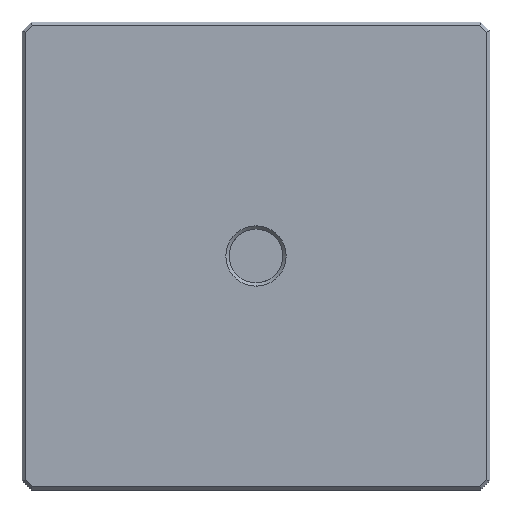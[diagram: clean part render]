
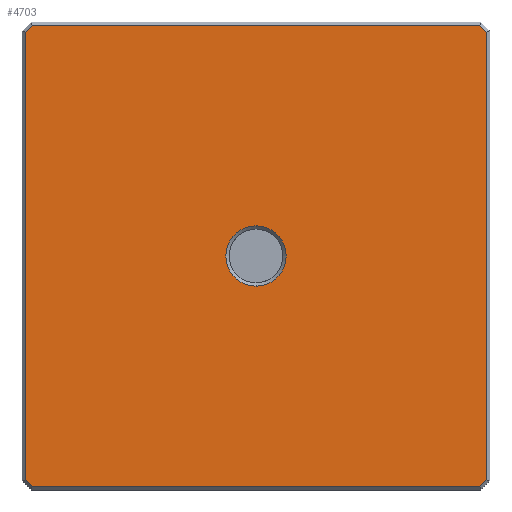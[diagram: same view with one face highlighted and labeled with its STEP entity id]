
A CAD part, front view. The second image highlights one B-rep face of the part: STEP entity #4703.
In plain terms, the highlighted planar face has unit normal (0, -1, 0).
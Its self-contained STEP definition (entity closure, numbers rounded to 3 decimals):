
#9 = DIRECTION ( 'NONE',  ( 0.707, 0., -0.707 ) ) ;
#23 = EDGE_CURVE ( 'NONE', #1134, #6333, #5528, .T. ) ;
#71 = CARTESIAN_POINT ( 'NONE',  ( 50., 13.5, -51.3 ) ) ;
#113 = VECTOR ( 'NONE', #2059, 1000. ) ;
#149 = ORIENTED_EDGE ( 'NONE', *, *, #2039, .T. ) ;
#262 = ORIENTED_EDGE ( 'NONE', *, *, #4584, .T. ) ;
#323 = ORIENTED_EDGE ( 'NONE', *, *, #3353, .T. ) ;
#389 = CARTESIAN_POINT ( 'NONE',  ( -49.71, 13.5, -51.3 ) ) ;
#392 = CARTESIAN_POINT ( 'NONE',  ( -52., 13.5, -52. ) ) ;
#480 = LINE ( 'NONE', #2404, #5567 ) ;
#494 = ORIENTED_EDGE ( 'NONE', *, *, #1792, .T. ) ;
#574 = CARTESIAN_POINT ( 'NONE',  ( 49.71, 13.5, 51.3 ) ) ;
#602 = EDGE_LOOP ( 'NONE', ( #494, #323, #262, #2065, #149, #3257, #2247, #2673 ) ) ;
#994 = LINE ( 'NONE', #1011, #5961 ) ;
#1011 = CARTESIAN_POINT ( 'NONE',  ( -50.505, 13.5, -50.505 ) ) ;
#1082 = EDGE_CURVE ( 'NONE', #2318, #1134, #5428, .T. ) ;
#1134 = VERTEX_POINT ( 'NONE', #2573 ) ;
#1250 = VECTOR ( 'NONE', #2693, 1000. ) ;
#1426 = VERTEX_POINT ( 'NONE', #389 ) ;
#1492 = CARTESIAN_POINT ( 'NONE',  ( 51.3, 13.5, 50. ) ) ;
#1512 = DIRECTION ( 'NONE',  ( -1., 0., 0. ) ) ;
#1518 = EDGE_CURVE ( 'NONE', #5722, #3722, #6452, .T. ) ;
#1569 = DIRECTION ( 'NONE',  ( 0., -1., 0. ) ) ;
#1764 = PLANE ( 'NONE',  #5503 ) ;
#1792 = EDGE_CURVE ( 'NONE', #2147, #2007, #480, .T. ) ;
#1796 = CARTESIAN_POINT ( 'NONE',  ( -51.3, 13.5, -49.71 ) ) ;
#1830 = DIRECTION ( 'NONE',  ( 0., 0., 1. ) ) ;
#1867 = CARTESIAN_POINT ( 'NONE',  ( -102.505, 13.5, -1.495 ) ) ;
#2007 = VERTEX_POINT ( 'NONE', #6624 ) ;
#2037 = VECTOR ( 'NONE', #2488, 1000. ) ;
#2039 = EDGE_CURVE ( 'NONE', #1426, #2318, #6777, .T. ) ;
#2059 = DIRECTION ( 'NONE',  ( -0.707, 0., -0.707 ) ) ;
#2065 = ORIENTED_EDGE ( 'NONE', *, *, #5712, .T. ) ;
#2147 = VERTEX_POINT ( 'NONE', #574 ) ;
#2235 = AXIS2_PLACEMENT_3D ( 'NONE', #2954, #2971, #2986 ) ;
#2247 = ORIENTED_EDGE ( 'NONE', *, *, #23, .T. ) ;
#2318 = VERTEX_POINT ( 'NONE', #3563 ) ;
#2404 = CARTESIAN_POINT ( 'NONE',  ( -50., 13.5, 51.3 ) ) ;
#2488 = DIRECTION ( 'NONE',  ( 0., 0., -1. ) ) ;
#2573 = CARTESIAN_POINT ( 'NONE',  ( 51.3, 13.5, -49.71 ) ) ;
#2673 = ORIENTED_EDGE ( 'NONE', *, *, #4583, .T. ) ;
#2676 = VERTEX_POINT ( 'NONE', #5082 ) ;
#2693 = DIRECTION ( 'NONE',  ( -0.707, 0., 0.707 ) ) ;
#2744 = VECTOR ( 'NONE', #5837, 1000. ) ;
#2786 = CARTESIAN_POINT ( 'NONE',  ( 50.505, 13.5, 50.505 ) ) ;
#2954 = CARTESIAN_POINT ( 'NONE',  ( 0., 13.5, 0. ) ) ;
#2971 = DIRECTION ( 'NONE',  ( 0., 1., 0. ) ) ;
#2986 = DIRECTION ( 'NONE',  ( 0., 0., -1. ) ) ;
#3204 = LINE ( 'NONE', #4268, #2037 ) ;
#3257 = ORIENTED_EDGE ( 'NONE', *, *, #1082, .T. ) ;
#3309 = DIRECTION ( 'NONE',  ( 0.707, 0., 0.707 ) ) ;
#3353 = EDGE_CURVE ( 'NONE', #2007, #2676, #5702, .T. ) ;
#3368 = CARTESIAN_POINT ( 'NONE',  ( -1.495, 13.5, -102.505 ) ) ;
#3378 = VERTEX_POINT ( 'NONE', #1796 ) ;
#3563 = CARTESIAN_POINT ( 'NONE',  ( 49.71, 13.5, -51.3 ) ) ;
#3573 = EDGE_LOOP ( 'NONE', ( #5679, #5368 ) ) ;
#3687 = LINE ( 'NONE', #2786, #1250 ) ;
#3722 = VERTEX_POINT ( 'NONE', #3932 ) ;
#3774 = DIRECTION ( 'NONE',  ( 0., 0., -1. ) ) ;
#3853 = CARTESIAN_POINT ( 'NONE',  ( 51.3, 13.5, 49.71 ) ) ;
#3932 = CARTESIAN_POINT ( 'NONE',  ( 0., 13.5, -6.7 ) ) ;
#3979 = AXIS2_PLACEMENT_3D ( 'NONE', #6555, #6572, #6595 ) ;
#4232 = FACE_OUTER_BOUND ( 'NONE', #602, .T. ) ;
#4268 = CARTESIAN_POINT ( 'NONE',  ( -51.3, 13.5, -50. ) ) ;
#4459 = CIRCLE ( 'NONE', #3979, 6.7 ) ;
#4583 = EDGE_CURVE ( 'NONE', #6333, #2147, #3687, .T. ) ;
#4584 = EDGE_CURVE ( 'NONE', #2676, #3378, #3204, .T. ) ;
#4703 = ADVANCED_FACE ( 'NONE', ( #4232, #6587 ), #1764, .T. ) ;
#5030 = VECTOR ( 'NONE', #3309, 1000. ) ;
#5082 = CARTESIAN_POINT ( 'NONE',  ( -51.3, 13.5, 49.71 ) ) ;
#5368 = ORIENTED_EDGE ( 'NONE', *, *, #1518, .T. ) ;
#5428 = LINE ( 'NONE', #3368, #5030 ) ;
#5445 = CARTESIAN_POINT ( 'NONE',  ( 0., 13.5, 6.7 ) ) ;
#5503 = AXIS2_PLACEMENT_3D ( 'NONE', #392, #1569, #3774 ) ;
#5528 = LINE ( 'NONE', #1492, #5593 ) ;
#5567 = VECTOR ( 'NONE', #1512, 1000. ) ;
#5593 = VECTOR ( 'NONE', #1830, 1000. ) ;
#5679 = ORIENTED_EDGE ( 'NONE', *, *, #6034, .T. ) ;
#5702 = LINE ( 'NONE', #1867, #113 ) ;
#5712 = EDGE_CURVE ( 'NONE', #3378, #1426, #994, .T. ) ;
#5722 = VERTEX_POINT ( 'NONE', #5445 ) ;
#5837 = DIRECTION ( 'NONE',  ( 1., 0., 0. ) ) ;
#5961 = VECTOR ( 'NONE', #9, 1000. ) ;
#6034 = EDGE_CURVE ( 'NONE', #3722, #5722, #4459, .T. ) ;
#6333 = VERTEX_POINT ( 'NONE', #3853 ) ;
#6452 = CIRCLE ( 'NONE', #2235, 6.7 ) ;
#6555 = CARTESIAN_POINT ( 'NONE',  ( 0., 13.5, 0. ) ) ;
#6572 = DIRECTION ( 'NONE',  ( 0., 1., 0. ) ) ;
#6587 = FACE_BOUND ( 'NONE', #3573, .T. ) ;
#6595 = DIRECTION ( 'NONE',  ( 0., 0., -1. ) ) ;
#6624 = CARTESIAN_POINT ( 'NONE',  ( -49.71, 13.5, 51.3 ) ) ;
#6777 = LINE ( 'NONE', #71, #2744 ) ;
